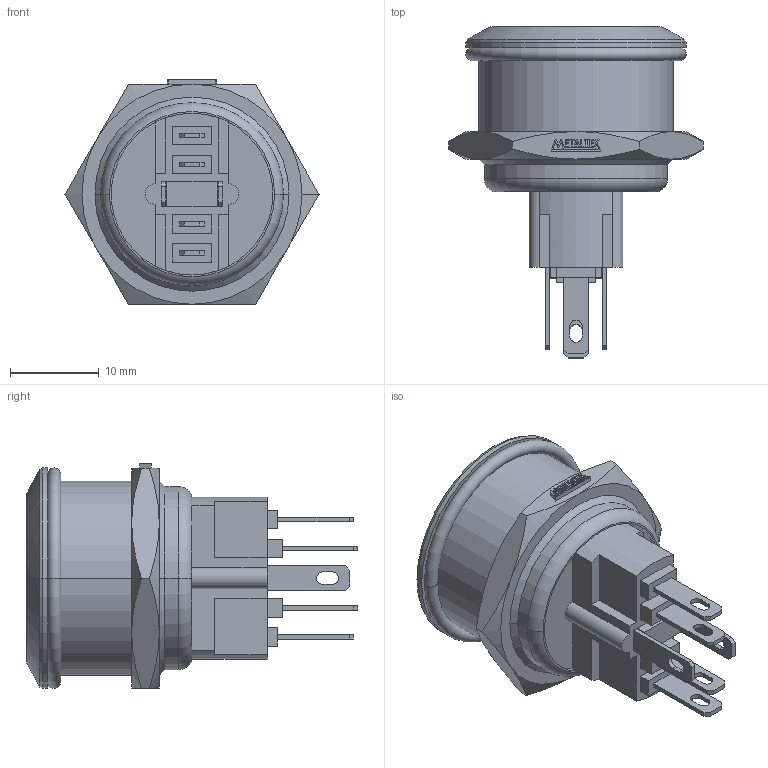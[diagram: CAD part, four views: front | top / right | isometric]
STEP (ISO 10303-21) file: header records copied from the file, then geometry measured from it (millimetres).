
FILE_DESCRIPTION (( 'STEP AP203' ), '1' );
FILE_NAME ('AV22I.STEP', '2018-01-17T14:28:17', ( '' ), ( '' ), 'SwSTEP 2.0', 'SolidWorks 2012', '' );
FILE_SCHEMA (( 'CONFIG_CONTROL_DESIGN' ));
Length unit declared in the file: millimetre
Products named in the file (3): METALTEX 5,62; AV22I
Assembly tree (2 placements, depth 2):
  AV22I
    AV22I
    METALTEX 5,62
Bounding box: 28.6 x 37.35 x 25.28 mm (x, y, z)
Volume: 8633.7 mm3; surface area: 3903.7 mm2
Topology: 8 solids, 8 shells, 271 faces, 678 edges, 442 vertices
Faces by surface type: plane 209, cylinder 36, cone 20, torus 4, sphere 2
Entity records: 8401 total; most frequent: CARTESIAN_POINT 1540, ORIENTED_EDGE 1356, DIRECTION 1314, EDGE_CURVE 678, LINE 546, VECTOR 546, VERTEX_POINT 442, AXIS2_PLACEMENT_3D 384
